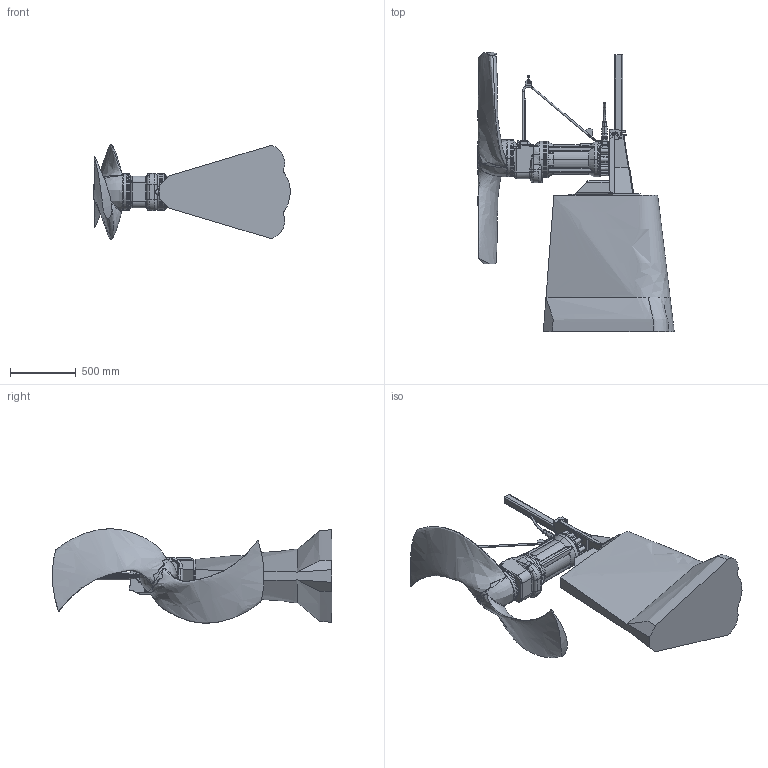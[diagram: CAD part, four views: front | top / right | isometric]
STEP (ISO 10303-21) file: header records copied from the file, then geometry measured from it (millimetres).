
FILE_DESCRIPTION (( 'STEP AP214' ), '1' );
FILE_NAME ('XSB1600 Concrete pedestal 1030_MSD.STEP', '2015-01-16T10:09:36', ( '' ), ( '' ), 'SwSTEP 2.0', 'SolidWorks 2013', '' );
FILE_SCHEMA (( 'AUTOMOTIVE_DESIGN' ));
Products named in the file (1): XSB1600 Concrete pedestal 1030_MSD
Bounding box: 1489.72 x 2116.44 x 715.98 mm (x, y, z)
Volume: 346734568.3 mm3; surface area: 6214780.1 mm2
Topology: 1 solids, 1 shells, 1735 faces, 4322 edges, 2537 vertices
Faces by surface type: bspline 510, plane 446, cylinder 378, torus 259, cone 76, sphere 66
Entity records: 422375 total; most frequent: CARTESIAN_POINT 384859, ORIENTED_EDGE 8482, DIRECTION 7173, EDGE_CURVE 4241, AXIS2_PLACEMENT_3D 2870, VERTEX_POINT 2532, EDGE_LOOP 1795, FACE_OUTER_BOUND 1735
